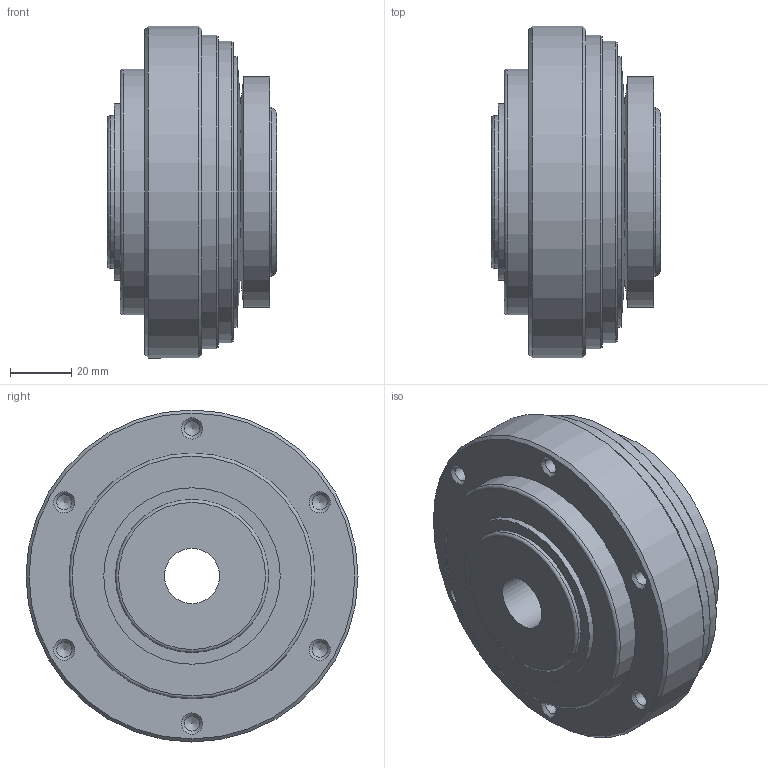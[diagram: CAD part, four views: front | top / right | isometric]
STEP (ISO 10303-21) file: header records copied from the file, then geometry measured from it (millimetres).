
FILE_DESCRIPTION(/* description */ ('Unknown'),/* implementation_level */ '2;1');
FILE_NAME(/* name */ 'SKVA-N 70',/* time_stamp */ '2025-02-05T10:50:54+01:00',/* author */ ('Unknown'),/* organization */ ('Unknown'),/* preprocessor_version */ 'ST-DEVELOPER v18.102',/* originating_system */ 'Solid Edge',/* authorisation */ 'Unknown');
FILE_SCHEMA (('AUTOMOTIVE_DESIGN {1 0 10303 214 3 1 1}'));
Length unit declared in the file: millimetre
Products named in the file (1): SKVA-N  70
Bounding box: 55 x 108 x 108 mm (x, y, z)
Volume: 341604.8 mm3; surface area: 40174.5 mm2
Topology: 1 solids, 1 shells, 53 faces, 114 edges, 71 vertices
Faces by surface type: cone 21, cylinder 20, plane 10, torus 2
Full cylindrical faces by diameter (mm): 4.917 x12, 18 x1, 49.8 x1, 55 x1, 57.4 x1, 75 x1, 98 x1, 102 x1, 108 x1
Entity records: 1487 total; most frequent: DIRECTION 214, CARTESIAN_POINT 166, FACE_BOUND 112, AXIS2_PLACEMENT_3D 107, ORIENTED_EDGE 106, EDGE_LOOP 106, VERTEX_POINT 59, EDGE_CURVE 53
